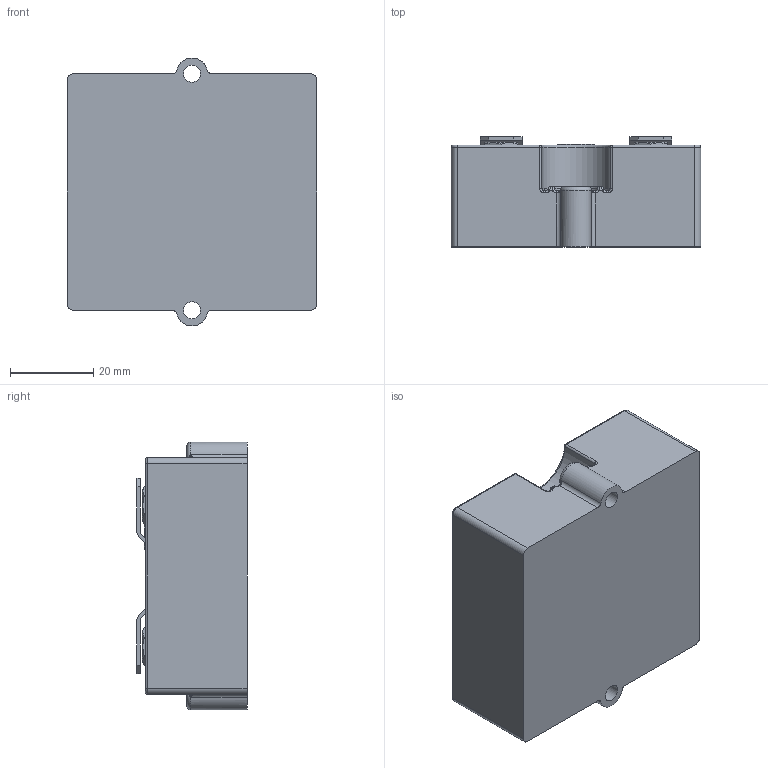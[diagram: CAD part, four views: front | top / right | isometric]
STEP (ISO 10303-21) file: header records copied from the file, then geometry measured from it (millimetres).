
FILE_DESCRIPTION(('STEP AP203'), '1');
FILE_NAME('Ð1-150Ì-600-3', '', ('UNSPECIFIED'), ('UNSPECIFIED'), 'C3D Converter', 'C3D Toolkit', '');
FILE_SCHEMA(('CONFIG_CONTROL_DESIGN'));
Length unit declared in the file: millimetre
Products named in the file (8): -01
Assembly tree (9 placements, depth 2):
  (unnamed)
    (unnamed)
    (unnamed)  x2
    -01  x2
    (unnamed)
    (unnamed)
    (unnamed)
    (unnamed)
Bounding box: 60 x 26.5 x 64.5 mm (x, y, z)
Volume: 68659.6 mm3; surface area: 25161.9 mm2
Topology: 9 solids, 11 shells, 423 faces, 1105 edges, 714 vertices
Faces by surface type: plane 251, cylinder 90, bspline 32, torus 24, cone 22, sphere 4
Full cylindrical faces by diameter (mm): 1.5 x4, 4 x4, 4.1 x2, 4.134 x4, 7.5 x2
Entity records: 18976 total; most frequent: CARTESIAN_POINT 5818, ORIENTED_EDGE 1986, DIRECTION 1899, EDGE_CURVE 993, VERTEX_POINT 670, AXIS2_PLACEMENT_3D 645, LINE 609, VECTOR 609
